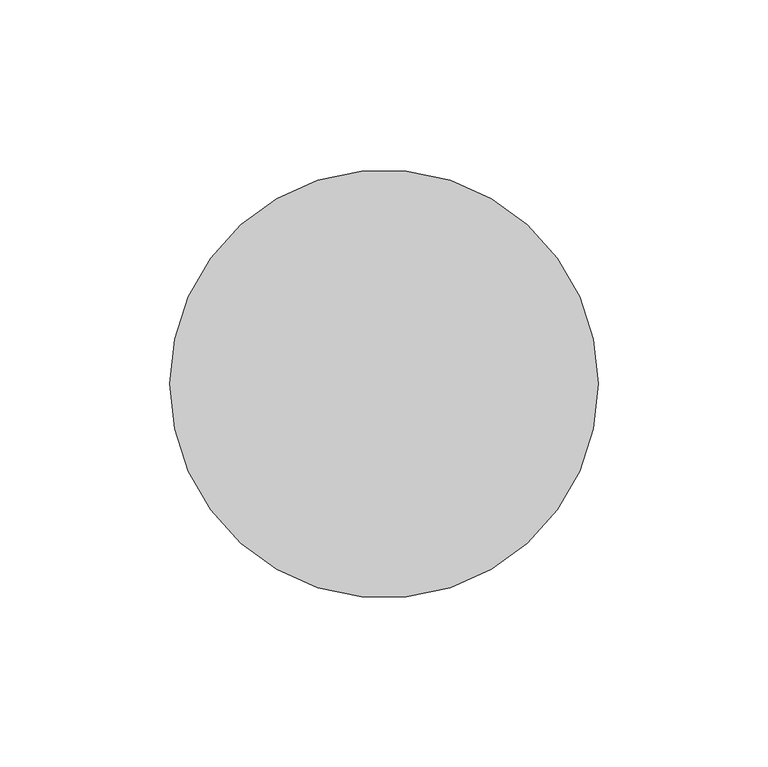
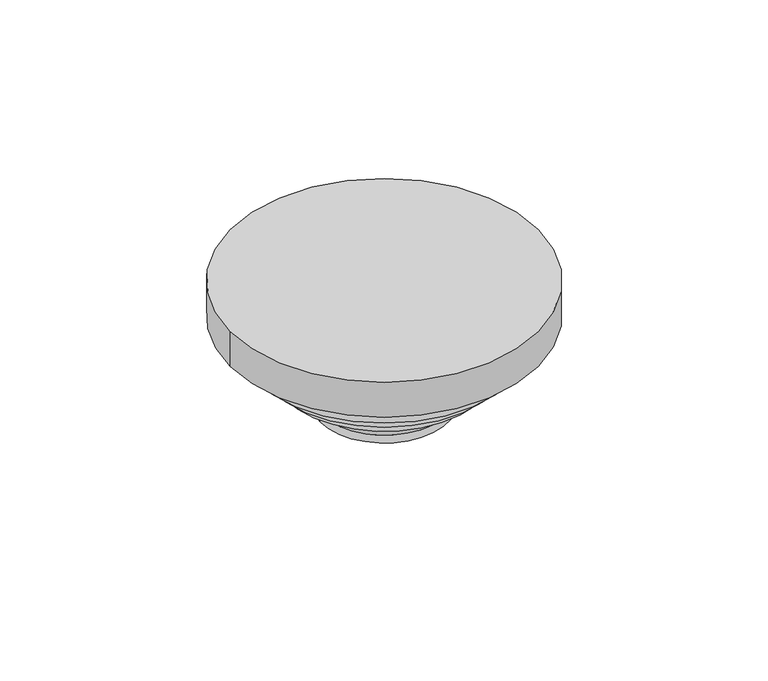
"""IFC4 building model written with IfcOpenShell, lengths in millimetres: proxy geometry, Environmentální detektory.CC : JA-111ST-A."""

from ifc_helpers import new_model, si_unit, frame, origin, origin_with_axes, place, context, project, spatial, polyline, circle_curve, source, transform, mapped, element, save
from ifc_brep_helpers import plane_surface, cylinder_surface, revolved_surface, advanced_brep


def security_devices_a8dfe63a(model_context):
    return source(origin(), model_context, "Body", "AdvancedBrep", [
        advanced_brep(
        [(26.2652348, 0.0, -52.0), (-26.2652348, 0.0, -52.0), (-63.0, 0.0, 0.0), (63.0, 0.0, 0.0), (-63.0, 0.0, -15.1032869), (63.0, 0.0, -15.1032869), (-26.2652348, 0.0, -48.6666657), (26.2652348, 0.0, -48.6666657), (31.3644661, 0.0, -42.7), (-31.3644661, 0.0, -42.7), (31.3644661, 0.0, -39.7), (-31.3644661, 0.0, -39.7), (40.9, 0.0, -36.7), (-40.9, 0.0, -36.7), (40.9, 0.0, -33.7), (-40.9, 0.0, -33.7), (46.9, 0.0, -30.7), (-46.9, 0.0, -30.7), (46.9, 0.0, -27.7), (-46.9, 0.0, -27.7), (52.9, 0.0, -24.7), (-52.9, 0.0, -24.7), (52.9, 0.0, -21.7), (-52.9, 0.0, -21.7)],
        [
            (0, 1, circle_curve(frame((0.0, 0.0, -52.0), z_axis=(0.0, 0.0, -1.0), x_axis=(1.0, 0.0, 0.0)), 26.2652348)),
            (1, 0, circle_curve(frame((0.0, 0.0, -52.0), z_axis=(0.0, 0.0, -1.0), x_axis=(-1.0, 0.0, 0.0)), 26.2652348)),
            (2, 3, circle_curve(origin_with_axes(), 63.0)),
            (3, 2, circle_curve(origin_with_axes(), 63.0)),
            (2, 4),
            (4, 5, circle_curve(frame((0.0, 0.0, -15.1032869), z_axis=(0.0, 0.0, 1.0), x_axis=(1.0, 0.0, 0.0)), 63.0)),
            (5, 3),
            (5, 4, circle_curve(frame((0.0, 0.0, -15.1032869), z_axis=(0.0, 0.0, 1.0), x_axis=(1.0, 0.0, 0.0)), 63.0)),
            (6, 1),
            (0, 7),
            (7, 6, circle_curve(frame((0.0, 0.0, -48.6666657), z_axis=(0.0, 0.0, -1.0), x_axis=(1.0, 0.0, 0.0)), 26.2652348)),
            (7, 8),
            (8, 9, circle_curve(frame((0.0, 0.0, -42.7), z_axis=(0.0, 0.0, -1.0), x_axis=(1.0, 0.0, 0.0)), 31.3644661)),
            (9, 6),
            (8, 10),
            (10, 11, circle_curve(frame((0.0, 0.0, -39.7), z_axis=(0.0, 0.0, -1.0), x_axis=(1.0, 0.0, 0.0)), 31.3644661)),
            (11, 9),
            (10, 12),
            (12, 13, circle_curve(frame((0.0, 0.0, -36.7), z_axis=(0.0, 0.0, -1.0), x_axis=(1.0, 0.0, 0.0)), 40.9)),
            (13, 11),
            (12, 14),
            (14, 15, circle_curve(frame((0.0, 0.0, -33.7), z_axis=(0.0, 0.0, -1.0), x_axis=(1.0, 0.0, 0.0)), 40.9)),
            (15, 13),
            (14, 16),
            (16, 17, circle_curve(frame((0.0, 0.0, -30.7), z_axis=(0.0, 0.0, -1.0), x_axis=(1.0, 0.0, 0.0)), 46.9)),
            (17, 15),
            (16, 18),
            (18, 19, circle_curve(frame((0.0, 0.0, -27.7), z_axis=(0.0, 0.0, -1.0), x_axis=(1.0, 0.0, 0.0)), 46.9)),
            (19, 17),
            (18, 20),
            (20, 21, circle_curve(frame((0.0, 0.0, -24.7), z_axis=(0.0, 0.0, -1.0), x_axis=(1.0, 0.0, 0.0)), 52.9)),
            (21, 19),
            (20, 22),
            (22, 23, circle_curve(frame((0.0, 0.0, -21.7), z_axis=(0.0, 0.0, -1.0), x_axis=(1.0, 0.0, 0.0)), 52.9)),
            (23, 21),
            (22, 5),
            (4, 23),
            (6, 7, circle_curve(frame((0.0, 0.0, -48.6666657), z_axis=(0.0, 0.0, -1.0), x_axis=(-1.0, 0.0, 0.0)), 26.2652348)),
            (9, 8, circle_curve(frame((0.0, 0.0, -42.7), z_axis=(0.0, 0.0, -1.0), x_axis=(-1.0, 0.0, 0.0)), 31.3644661)),
            (11, 10, circle_curve(frame((0.0, 0.0, -39.7), z_axis=(0.0, 0.0, -1.0), x_axis=(-1.0, 0.0, 0.0)), 31.3644661)),
            (13, 12, circle_curve(frame((0.0, 0.0, -36.7), z_axis=(0.0, 0.0, -1.0), x_axis=(-1.0, 0.0, 0.0)), 40.9)),
            (15, 14, circle_curve(frame((0.0, 0.0, -33.7), z_axis=(0.0, 0.0, -1.0), x_axis=(-1.0, 0.0, 0.0)), 40.9)),
            (17, 16, circle_curve(frame((0.0, 0.0, -30.7), z_axis=(0.0, 0.0, -1.0), x_axis=(-1.0, 0.0, 0.0)), 46.9)),
            (19, 18, circle_curve(frame((0.0, 0.0, -27.7), z_axis=(0.0, 0.0, -1.0), x_axis=(-1.0, 0.0, 0.0)), 46.9)),
            (21, 20, circle_curve(frame((0.0, 0.0, -24.7), z_axis=(0.0, 0.0, -1.0), x_axis=(-1.0, 0.0, 0.0)), 52.9)),
            (23, 22, circle_curve(frame((0.0, 0.0, -21.7), z_axis=(0.0, 0.0, -1.0), x_axis=(-1.0, 0.0, 0.0)), 52.9)),
        ],
        [
            plane_surface(frame((63.0, 0.0, -52.0), z_axis=(0.0, 0.0, -1.0), x_axis=(0.0, -1.0, 0.0))),
            plane_surface(frame((63.0, 0.0, 0.0), z_axis=(0.0, 0.0, 1.0), x_axis=(0.0, 1.0, 0.0))),
            cylinder_surface(frame((0.0, 0.0, -52.0), z_axis=(0.0, 0.0, 1.0), x_axis=(1.0, 0.0, 0.0)), 63.0),
            cylinder_surface(frame((0.0, 0.0, 0.0), z_axis=(0.0, 0.0, -1.0), x_axis=(1.0, 0.0, 0.0)), 26.2652348),
            revolved_surface(polyline([(31.3644661, 0.0, -42.7), (26.2652348, 0.0, -48.6666657)]), (0.0, 0.0, 0.0), (0.0, 0.0, -1.0)),
            cylinder_surface(frame((0.0, 0.0, 0.0), z_axis=(0.0, 0.0, -1.0), x_axis=(1.0, 0.0, 0.0)), 31.3644661),
            revolved_surface(polyline([(40.9, 0.0, -36.7), (31.3644661, 0.0, -39.7)]), (0.0, 0.0, 0.0), (0.0, 0.0, -1.0)),
            cylinder_surface(frame((0.0, 0.0, 0.0), z_axis=(0.0, 0.0, -1.0), x_axis=(1.0, 0.0, 0.0)), 40.9),
            revolved_surface(polyline([(46.9, 0.0, -30.7), (40.9, 0.0, -33.7)]), (0.0, 0.0, 0.0), (0.0, 0.0, -1.0)),
            cylinder_surface(frame((0.0, 0.0, 0.0), z_axis=(0.0, 0.0, -1.0), x_axis=(1.0, 0.0, 0.0)), 46.9),
            revolved_surface(polyline([(52.9, 0.0, -24.7), (46.9, 0.0, -27.7)]), (0.0, 0.0, 0.0), (0.0, 0.0, -1.0)),
            cylinder_surface(frame((0.0, 0.0, 0.0), z_axis=(0.0, 0.0, -1.0), x_axis=(1.0, 0.0, 0.0)), 52.9),
            revolved_surface(polyline([(63.0, 0.0, -15.1032869), (52.9, 0.0, -21.7)]), (0.0, 0.0, 0.0), (0.0, 0.0, -1.0)),
            cylinder_surface(frame((0.0, 0.0, 0.0), z_axis=(0.0, 0.0, -1.0), x_axis=(-1.0, 0.0, 0.0)), 26.2652348),
            revolved_surface(polyline([(-31.3644661, 0.0, -42.7), (-26.2652348, 0.0, -48.6666657)]), (0.0, 0.0, 0.0), (0.0, 0.0, -1.0)),
            cylinder_surface(frame((0.0, 0.0, 0.0), z_axis=(0.0, 0.0, -1.0), x_axis=(-1.0, 0.0, 0.0)), 31.3644661),
            revolved_surface(polyline([(-40.9, 0.0, -36.7), (-31.3644661, 0.0, -39.7)]), (0.0, 0.0, 0.0), (0.0, 0.0, -1.0)),
            cylinder_surface(frame((0.0, 0.0, 0.0), z_axis=(0.0, 0.0, -1.0), x_axis=(-1.0, 0.0, 0.0)), 40.9),
            revolved_surface(polyline([(-46.9, 0.0, -30.7), (-40.9, 0.0, -33.7)]), (0.0, 0.0, 0.0), (0.0, 0.0, -1.0)),
            cylinder_surface(frame((0.0, 0.0, 0.0), z_axis=(0.0, 0.0, -1.0), x_axis=(-1.0, 0.0, 0.0)), 46.9),
            revolved_surface(polyline([(-52.9, 0.0, -24.7), (-46.9, 0.0, -27.7)]), (0.0, 0.0, 0.0), (0.0, 0.0, -1.0)),
            cylinder_surface(frame((0.0, 0.0, 0.0), z_axis=(0.0, 0.0, -1.0), x_axis=(-1.0, 0.0, 0.0)), 52.9),
            revolved_surface(polyline([(-63.0, 0.0, -15.1032869), (-52.9, 0.0, -21.7)]), (0.0, 0.0, 0.0), (0.0, 0.0, -1.0)),
        ],
        [
            (0, [[1, 2]]),
            (1, [[3, 4]]),
            (2, [[-3, 5, 6, 7]]),
            (2, [[-4, -7, 8, -5]]),
            (3, [[9, -1, 10, 11]]),
            (4, [[-11, 12, 13, 14]]),
            (5, [[-13, 15, 16, 17]]),
            (6, [[-16, 18, 19, 20]]),
            (7, [[-19, 21, 22, 23]]),
            (8, [[-22, 24, 25, 26]]),
            (9, [[-25, 27, 28, 29]]),
            (10, [[-28, 30, 31, 32]]),
            (11, [[-31, 33, 34, 35]]),
            (12, [[-34, 36, -6, 37]]),
            (13, [[-9, 38, -10, -2]]),
            (14, [[-14, 39, -12, -38]]),
            (15, [[-17, 40, -15, -39]]),
            (16, [[-20, 41, -18, -40]]),
            (17, [[-23, 42, -21, -41]]),
            (18, [[-26, 43, -24, -42]]),
            (19, [[-29, 44, -27, -43]]),
            (20, [[-32, 45, -30, -44]]),
            (21, [[-35, 46, -33, -45]]),
            (22, [[-37, -8, -36, -46]]),
        ],
    ),
    ])


if __name__ == "__main__":
    model = new_model("IFC4")
    model_context = context("Model", 3, world=origin())
    ifc_project = project(units=[si_unit("LENGTHUNIT", "METRE", prefix="MILLI")], contexts=[model_context])
    site = spatial("IfcSite", under=ifc_project)
    building = spatial("IfcBuilding", under=site)
    placement = place(None, origin())
    security_devices_shape = security_devices_a8dfe63a(model_context)
    element("IfcBuildingElementProxy", 1, Name="Environmentální detektory.CC : JA-111ST-A", ObjectType="Environmentální detektory.CC : JA-111ST-A", at=placement, inside=building, context=model_context, shape_type="MappedRepresentation", body=[
        mapped(security_devices_shape, transform((0.0, 0.0, 0.0), x_axis=(1.0, 0.0, 0.0), y_axis=(0.0, 1.0, 0.0), z_axis=(0.0, 0.0, 1.0))),
    ])
    save(model, "model.ifc")
